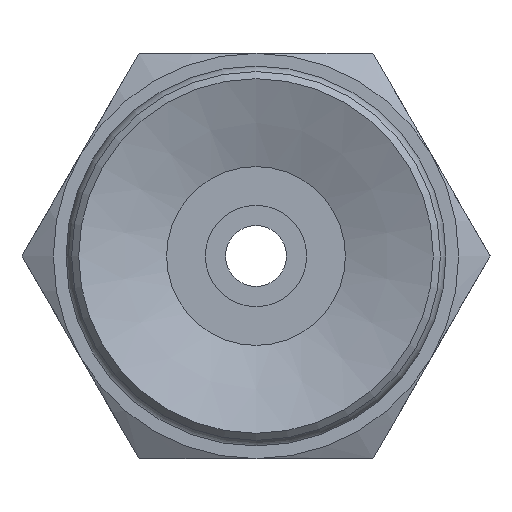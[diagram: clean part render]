
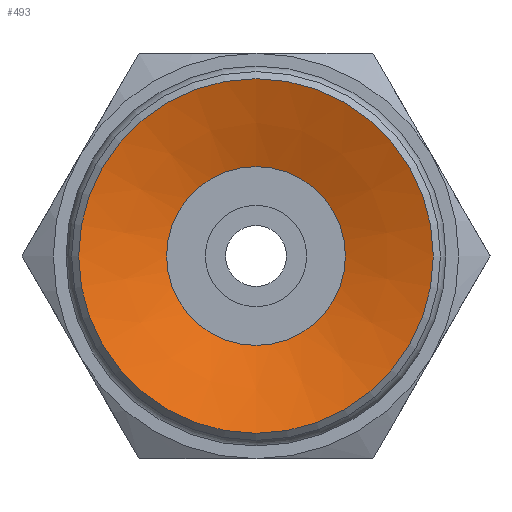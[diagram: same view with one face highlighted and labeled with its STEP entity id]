
A CAD part, front view. The second image highlights one B-rep face of the part: STEP entity #493.
In plain terms, the highlighted conical face has half-angle 70 degrees and reference radius 3.5 mm.
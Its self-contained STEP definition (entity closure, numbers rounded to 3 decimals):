
#493=ADVANCED_FACE('',(#739,#740),#741,.F.);
#739=FACE_BOUND('',#994,.T.);
#740=FACE_OUTER_BOUND('',#995,.T.);
#741=CONICAL_SURFACE('',#996,3.5,1.222);
#994=EDGE_LOOP('',(#1617));
#995=EDGE_LOOP('',(#1618));
#996=AXIS2_PLACEMENT_3D('',#1619,#1620,#1621);
#1617=ORIENTED_EDGE('',*,*,#1800,.F.);
#1618=ORIENTED_EDGE('',*,*,#1781,.T.);
#1619=CARTESIAN_POINT('',(0.0,0.0,0.0));
#1620=DIRECTION('',(-0.0,-1.0,0.));
#1621=DIRECTION('',(0.0,0.,-1.0));
#1781=EDGE_CURVE('',#2036,#2036,#2037,.T.);
#1800=EDGE_CURVE('',#2074,#2074,#2075,.T.);
#2036=VERTEX_POINT('',#2618);
#2037=CIRCLE('',#2619,3.5);
#2074=VERTEX_POINT('',#2656);
#2075=CIRCLE('',#2657,1.765);
#2618=CARTESIAN_POINT('',(0.0,0.,-3.5));
#2619=AXIS2_PLACEMENT_3D('',#2868,#2869,#2870);
#2656=CARTESIAN_POINT('',(0.0,0.632,-1.765));
#2657=AXIS2_PLACEMENT_3D('',#2925,#2926,#2927);
#2868=CARTESIAN_POINT('',(0.0,0.0,0.0));
#2869=DIRECTION('',(0.0,-1.0,0.));
#2870=DIRECTION('',(0.0,0.,-1.0));
#2925=CARTESIAN_POINT('',(0.0,0.632,0.0));
#2926=DIRECTION('',(0.0,-1.0,0.));
#2927=DIRECTION('',(0.0,0.,-1.0));
